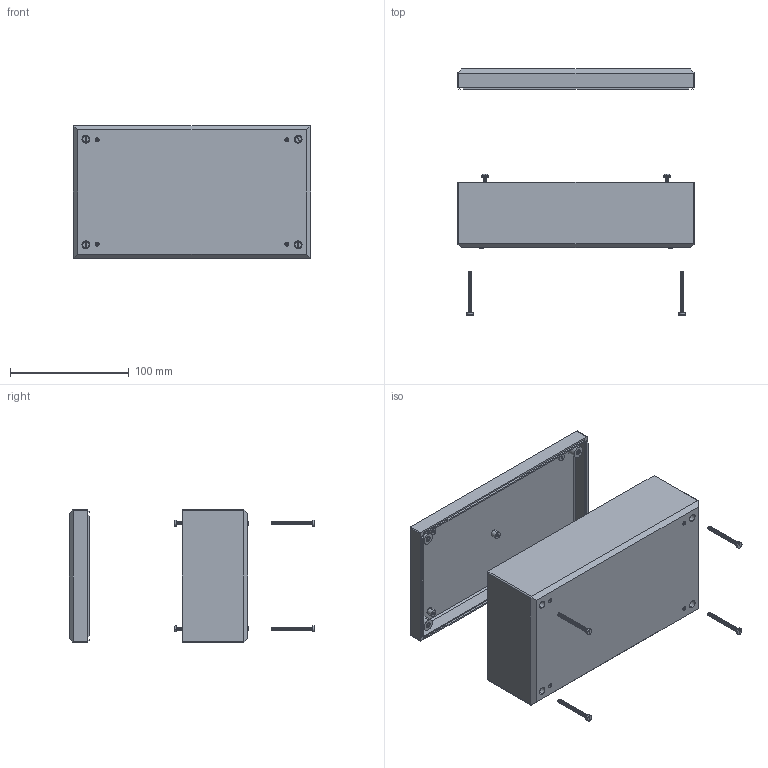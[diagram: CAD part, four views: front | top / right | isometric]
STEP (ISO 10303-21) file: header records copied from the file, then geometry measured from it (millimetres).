
FILE_DESCRIPTION (( 'STEP AP214' ), '1' );
FILE_NAME ('Conjunt PP39.STEP', '2016-09-08T14:39:42', ( 'aaa' ), ( '' ), 'SwSTEP 2.0', 'SolidWorks 2013', '' );
FILE_SCHEMA (( 'AUTOMOTIVE_DESIGN' ));
Length unit declared in the file: millimetre
Products named in the file (6): Fijacion tornillo PP39; Cargol 2,1x6,5 PP39; Cargol Metric 3x35 PP39; Tapa PP39; Cuerpo PP39; Conjunt PP39
Assembly tree (14 placements, depth 2):
  Conjunt PP39
    Cuerpo PP39
    Tapa PP39
    Cargol Metric 3x35 PP39  x4
    Cargol 2,1x6,5 PP39  x4
    Fijacion tornillo PP39  x4
Bounding box: 200 x 207.3 x 112 mm (x, y, z)
Volume: 283940.6 mm3; surface area: 188469.3 mm2
Topology: 14 solids, 14 shells, 1773 faces, 3672 edges, 1980 vertices
Faces by surface type: cone 1376, plane 229, cylinder 152, torus 16
Entity records: 16689 total; most frequent: DIRECTION 3146, CARTESIAN_POINT 2796, ORIENTED_EDGE 2612, EDGE_CURVE 1306, AXIS2_PLACEMENT_3D 1239, VERTEX_POINT 753, EDGE_LOOP 683, VECTOR 668
